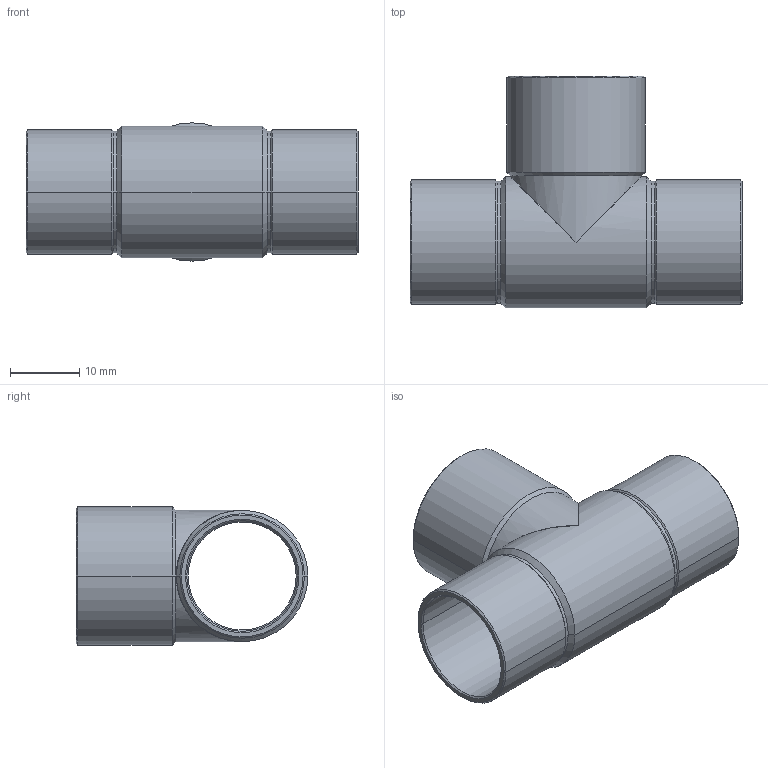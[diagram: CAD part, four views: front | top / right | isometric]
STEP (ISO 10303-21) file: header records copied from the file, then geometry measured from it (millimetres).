
FILE_DESCRIPTION((''),'2;1');
FILE_NAME('P:\Bouwmaten\z-maattekeningen 3D\5000\5130\5130161816.stp','2005-10-26T11:53:13',('Kris'),(''),'Autodesk Inventor 8','Autodesk Inventor 8','');
FILE_SCHEMA(('AUTOMOTIVE_DESIGN { 1 0 10303 214 1 1 1 1 }'));
Length unit declared in the file: millimetre
Products named in the file (1): 5130161816
Bounding box: 48 x 33.5 x 20 mm (x, y, z)
Volume: 3404.1 mm3; surface area: 6976.3 mm2
Topology: 1 solids, 1 shells, 67 faces, 152 edges, 78 vertices
Faces by surface type: cone 32, cylinder 28, bspline 4, plane 3
Entity records: 2225 total; most frequent: CARTESIAN_POINT 718, DIRECTION 348, ORIENTED_EDGE 288, AXIS2_PLACEMENT_3D 144, EDGE_CURVE 144, VERTEX_POINT 78, EDGE_LOOP 70, FACE_OUTER_BOUND 67
